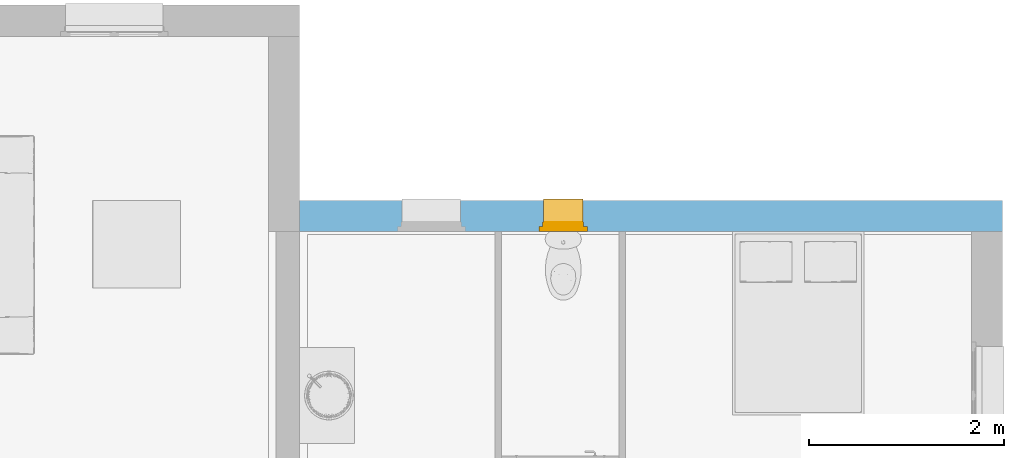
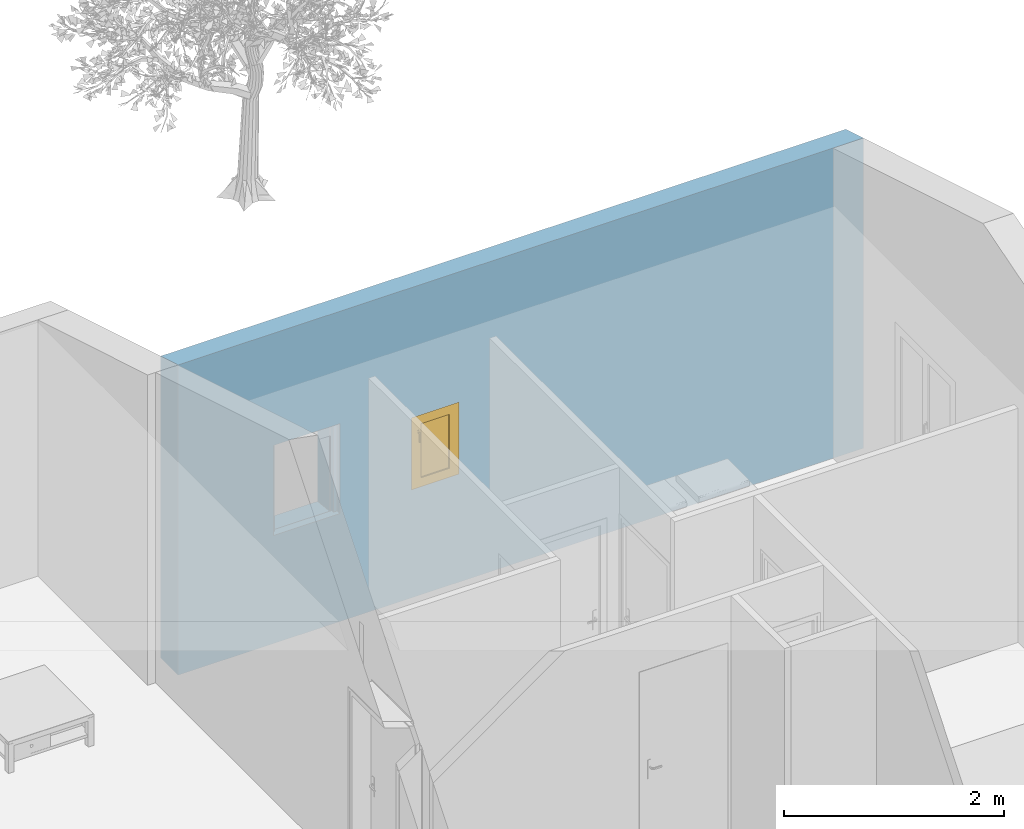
# One storey, part 14 of 18: 1 window, 2 openings, plus 1 element that does not belong to this part.
"""IFC2X3 building model written with IfcOpenShell, lengths in metres."""

import ifcopenshell
import ifcopenshell.guid

model = None  # the IFC model being written
_history = None  # IfcOwnerHistory: only IFC2X3 demands one
_inside = {}  # id of a spatial element -> (the spatial element, [elements in it])
_under = {}  # id of a project, library or spatial element -> (it, [spatial elements below it])
_declared = {}  # id of a project -> (the project, [libraries it declares])
_typed = {}  # id of a type object -> (the type object, [elements of that type])
_made_of = {}  # id of a material, layer set ... -> (it, [elements and type objects made of it])


def new_model(schema):
    """Start an empty IFC model of exactly this schema.

    Asked for "IFC4X3", IfcOpenShell would pick the latest addendum, in which some entities
    have other attributes; the version numbers below select the first issue.
    IFC2X3 requires an IfcOwnerHistory on every rooted entity: one is made here for all.
    """
    global model, _history
    if schema == "IFC4X3":
        model = ifcopenshell.file(schema_version=(4, 3, 0, 0))
    else:
        model = ifcopenshell.file(schema=schema)
    _inside.clear()
    _under.clear()
    _declared.clear()
    _typed.clear()
    _made_of.clear()
    _history = None
    if model.schema == "IFC2X3":
        org = make("IfcOrganization", Name="unknown")
        user = make(
            "IfcPersonAndOrganization",
            ThePerson=make("IfcPerson", FamilyName="unknown"),
            TheOrganization=org,
        )
        app = make(
            "IfcApplication",
            ApplicationDeveloper=org,
            Version="unknown",
            ApplicationFullName="unknown",
            ApplicationIdentifier="unknown",
        )
        _history = make(
            "IfcOwnerHistory",
            OwningUser=user,
            OwningApplication=app,
            ChangeAction="ADDED",
            CreationDate=0,
        )
    return model


def make(cls, **values):
    """One entity of the class cls with the attributes given. An attribute that is None is left unset."""
    return model.create_entity(
        cls, **{name: value for name, value in values.items() if value is not None}
    )


def entity(cls, *values):
    """Any entity or typed value of the class cls, its attributes in the order of the schema. None: left unset."""
    e = model.create_entity(cls)
    for i, value in enumerate(values):
        if value is not None:
            e[i] = value
    return e


def rooted(cls, **values):
    """An entity with a GlobalId (a new one), such as an element, a storey or a relation."""
    return make(cls, GlobalId=ifcopenshell.guid.new(), OwnerHistory=_history, **values)


def si_unit(unit_type, name, prefix=None):
    """IfcSIUnit, for example si_unit("LENGTHUNIT", "METRE", prefix="MILLI")."""
    return make("IfcSIUnit", UnitType=unit_type, Prefix=prefix, Name=name)


def converted_unit(unit_type, name, factor, base, dimensions=None, offset=None):
    """IfcConversionBasedUnit, such as the inch: factor (a typed value) times the base unit."""
    return make(
        "IfcConversionBasedUnit"
        if offset is None
        else "IfcConversionBasedUnitWithOffset",
        ConversionOffset=offset,
        Dimensions=None
        if dimensions is None
        else entity("IfcDimensionalExponents", *dimensions),
        UnitType=unit_type,
        Name=name,
        ConversionFactor=make(
            "IfcMeasureWithUnit", ValueComponent=factor, UnitComponent=base
        ),
    )


def derived_unit(unit_type, elements):
    """IfcDerivedUnit: a product of units, each with its exponent."""
    return make(
        "IfcDerivedUnit",
        Elements=[
            make("IfcDerivedUnitElement", Unit=unit, Exponent=power)
            for unit, power in elements
        ],
        UnitType=unit_type,
    )


def assignment(units):
    """IfcUnitAssignment: the units of a project."""
    return None if units is None else make("IfcUnitAssignment", Units=units)


def point(xyz):
    """IfcCartesianPoint."""
    return None if xyz is None else make("IfcCartesianPoint", Coordinates=xyz)


def direction(xyz):
    """IfcDirection."""
    return None if xyz is None else make("IfcDirection", DirectionRatios=xyz)


def frame(location, z_axis=None, x_axis=None):
    """IfcAxis2Placement3D, a coordinate frame: its origin and axes. An axis left out is left unset."""
    return make(
        "IfcAxis2Placement3D",
        Location=point(location),
        Axis=direction(z_axis),
        RefDirection=direction(x_axis),
    )


def frame_2d(location, x_axis=None):
    """IfcAxis2Placement2D, a coordinate frame in the plane: its origin and x axis."""
    return make(
        "IfcAxis2Placement2D", Location=point(location), RefDirection=direction(x_axis)
    )


def origin():
    """The frame at (0, 0, 0) with its axes left unset."""
    return frame((0.0, 0.0, 0.0))


def place(relative_to, where):
    """IfcLocalPlacement: puts the frame where relative to a parent placement (None: the world)."""
    return make(
        "IfcLocalPlacement", PlacementRelTo=relative_to, RelativePlacement=where
    )


def context(
    kind, dimensions, precision=None, world=None, true_north=None, identifier=None
):
    """IfcGeometricRepresentationContext, for example the 3D "Model" context."""
    return make(
        "IfcGeometricRepresentationContext",
        ContextIdentifier=identifier,
        ContextType=kind,
        CoordinateSpaceDimension=dimensions,
        Precision=precision,
        WorldCoordinateSystem=world,
        TrueNorth=true_north,
    )


def subcontext(parent, identifier, kind, view, scale=None):
    """IfcGeometricRepresentationSubContext, for example "Body" below "Model"."""
    return make(
        "IfcGeometricRepresentationSubContext",
        ContextIdentifier=identifier,
        ContextType=kind,
        ParentContext=parent,
        TargetScale=scale,
        TargetView=view,
    )


def project(units=None, contexts=None):
    """IfcProject with its units and contexts."""
    return rooted(
        "IfcProject",
        Name="project",
        RepresentationContexts=contexts,
        UnitsInContext=assignment(units),
    )


def spatial(cls, under=None, at=None, **own):
    """A site, building, storey or space (cls), placed at a placement, below another one or the project."""
    s = rooted(cls, ObjectPlacement=at, **own)
    if under is not None:
        _under.setdefault(under.id(), (under, []))[1].append(s)
    return s


def polyline(points):
    """IfcPolyline through the points."""
    return make("IfcPolyline", Points=[point(p) for p in points])


def profile(cls, at=None, kind="AREA", **sizes):
    """A parametric profile (cls). Its sizes go by their IFC names, for example OverallWidth=200.0."""
    return make(cls, ProfileType=kind, Position=at, **sizes)


def rectangle(**sizes):
    """IfcRectangleProfileDef."""
    return profile("IfcRectangleProfileDef", **sizes)


def extrude(swept, where, along, depth):
    """IfcExtrudedAreaSolid: the profile swept, set in the frame where, extruded along a direction by depth."""
    return make(
        "IfcExtrudedAreaSolid",
        SweptArea=swept,
        Position=where,
        ExtrudedDirection=direction(along),
        Depth=depth,
    )


def clip(a, b, op="DIFFERENCE"):
    """IfcBooleanClippingResult: the solid a cut by the half space b."""
    return make(
        "IfcBooleanClippingResult", Operator=op, FirstOperand=a, SecondOperand=b
    )


def bounded_halfspace(plane, agree, where, boundary):
    """IfcPolygonalBoundedHalfSpace: a half space limited to a polygon's prism."""
    return make(
        "IfcPolygonalBoundedHalfSpace",
        BaseSurface=make("IfcPlane", Position=plane),
        AgreementFlag=agree,
        Position=where,
        PolygonalBoundary=boundary,
    )


def faces_of(points, faces, orient=None, outer=None):
    """IfcFace entities. A face is a list of loops; a loop is a list of indices into points, from 0.

    orient and outer hold one flag for each loop. By default every Orientation is true, the
    first loop of a face is its IfcFaceOuterBound and the others are IfcFaceBound.
    """
    made = []
    for i, loops in enumerate(faces):
        bounds = []
        for j, loop in enumerate(loops):
            is_outer = j == 0 if outer is None else outer[i][j]
            bounds.append(
                make(
                    "IfcFaceOuterBound" if is_outer else "IfcFaceBound",
                    Bound=make("IfcPolyLoop", Polygon=[points[k] for k in loop]),
                    Orientation=True if orient is None else orient[i][j],
                )
            )
        made.append(make("IfcFace", Bounds=bounds))
    return made


def faceted_brep(points, faces, orient=None, outer=None, voids=None):
    """IfcFacetedBrep: a solid bounded by flat faces; with voids (closed shells), ...WithVoids."""
    shared = [point(p) for p in points]
    hull = make("IfcClosedShell", CfsFaces=faces_of(shared, faces, orient, outer))
    if voids is None:
        return make("IfcFacetedBrep", Outer=hull)
    return make(
        "IfcFacetedBrepWithVoids",
        Outer=hull,
        Voids=[
            make(cls, CfsFaces=faces_of(shared, fs, o, b)) for cls, fs, o, b in voids
        ],
    )


def shape(context_of_items, identifier, shape_type, items):
    """IfcShapeRepresentation: the items that make up one representation, for example the "Body"."""
    return make(
        "IfcShapeRepresentation",
        ContextOfItems=context_of_items,
        RepresentationIdentifier=identifier,
        RepresentationType=shape_type,
        Items=items,
    )


def source(mapping_origin, context_of_items, identifier, shape_type, items):
    """IfcRepresentationMap: a shape defined once, which mapped items show again and again."""
    return make(
        "IfcRepresentationMap",
        MappingOrigin=mapping_origin,
        MappedRepresentation=shape(context_of_items, identifier, shape_type, items),
    )


def transform(
    local_origin,
    x_axis=None,
    y_axis=None,
    z_axis=None,
    scale=None,
    scale2=None,
    scale3=None,
    uniform=True,
):
    """IfcCartesianTransformationOperator3D, or its non-uniform kind. x_axis, y_axis, z_axis: its Axis1, 2, 3."""
    if uniform:
        return make(
            "IfcCartesianTransformationOperator3D",
            Axis1=direction(x_axis),
            Axis2=direction(y_axis),
            LocalOrigin=point(local_origin),
            Scale=scale,
            Axis3=direction(z_axis),
        )
    return make(
        "IfcCartesianTransformationOperator3DnonUniform",
        Axis1=direction(x_axis),
        Axis2=direction(y_axis),
        LocalOrigin=point(local_origin),
        Scale=scale,
        Axis3=direction(z_axis),
        Scale2=scale2,
        Scale3=scale3,
    )


def mapped(mapping_source, mapping_target):
    """IfcMappedItem: shows the shape of a source again, moved by a transform."""
    return make(
        "IfcMappedItem", MappingSource=mapping_source, MappingTarget=mapping_target
    )


def material(Name=None, Category=None):
    """IfcMaterial."""
    return make("IfcMaterial", Name=Name, Category=Category)


def material_list(materials):
    """IfcMaterialList."""
    return make("IfcMaterialList", Materials=materials)


def layer(
    of_material, thickness, ventilated=None, Name=None, Category=None, Priority=None
):
    """IfcMaterialLayer: one layer of a wall or slab, of a material (None: an air gap)."""
    return make(
        "IfcMaterialLayer",
        Material=of_material,
        LayerThickness=thickness,
        IsVentilated=ventilated,
        Name=Name,
        Category=Category,
        Priority=Priority,
    )


def layer_set(layers, Name=None):
    """IfcMaterialLayerSet."""
    return make("IfcMaterialLayerSet", MaterialLayers=layers, LayerSetName=Name)


def layer_usage(for_layer_set, set_direction, sense, offset, extent=None):
    """IfcMaterialLayerSetUsage: how a layer set lies in its element."""
    return make(
        "IfcMaterialLayerSetUsage",
        ForLayerSet=for_layer_set,
        LayerSetDirection=set_direction,
        DirectionSense=sense,
        OffsetFromReferenceLine=offset,
        ReferenceExtent=extent,
    )


def made_of(thing, what):
    """Note that an element or type object is made of a material, layer set ...; save() writes the relation."""
    if what is not None:
        _made_of.setdefault(what.id(), (what, []))[1].append(thing)
    return thing


def type_object(cls, material=None, **own):
    """A type object (cls), such as IfcWallType, which elements share."""
    return made_of(rooted(cls, **own), material)


def type_shapes(of_type, sources):
    """Give a type object the sources (RepresentationMaps) that its elements show as mapped items."""
    of_type.RepresentationMaps = sources


def element(
    cls,
    number,
    at=None,
    inside=None,
    cuts=None,
    type_object=None,
    material=None,
    context=None,
    identifier="Body",
    shape_type=None,
    held_by="IfcProductDefinitionShape",
    body=None,
    shapes=None,
    **own,
):
    """One element of the class cls, such as IfcWall. Its Tag is "e" and its number.

    at: its placement. inside: the storey or other place that contains it. cuts: it is an
    opening in that element (IfcRelVoidsElement). A single representation is given by context,
    identifier, shape_type and body (its items); several are given by shapes. held_by: the class
    of the entity that holds the representations. save() writes the other relations.
    """
    e = rooted(cls, Tag="e%d" % number, ObjectPlacement=at, **own)
    if body is not None:
        shapes = [shape(context, identifier, shape_type, body)]
    if shapes is not None:
        e.Representation = make(held_by, Representations=shapes)
    if inside is not None:
        _inside.setdefault(inside.id(), (inside, []))[1].append(e)
    if cuts is not None:
        rooted(
            "IfcRelVoidsElement", RelatingBuildingElement=cuts, RelatedOpeningElement=e
        )
    if type_object is not None:
        _typed.setdefault(type_object.id(), (type_object, []))[1].append(e)
    return made_of(e, material)


def fill(opening, filler):
    """IfcRelFillsElement: the door or window that sits in an opening."""
    return rooted(
        "IfcRelFillsElement",
        RelatingOpeningElement=opening,
        RelatedBuildingElement=filler,
    )


def aggregate(whole, parts):
    """IfcRelAggregates: a whole, such as a stair, and the parts it consists of."""
    return rooted("IfcRelAggregates", RelatingObject=whole, RelatedObjects=parts)


def save(model, path):
    """Write the relations noted so far, then the file.

    IfcRelAggregates (storeys below a building ...), IfcRelContainedInSpatialStructure (elements
    in a storey), IfcRelDefinesByType, IfcRelAssociatesMaterial and IfcRelDeclares: one each for
    every whole, place, type object, material and project.
    """
    for whole, parts in _under.values():
        aggregate(whole, parts)
    for where, things in _inside.values():
        rooted(
            "IfcRelContainedInSpatialStructure",
            RelatedElements=things,
            RelatingStructure=where,
        )
    for kind, things in _typed.values():
        rooted("IfcRelDefinesByType", RelatedObjects=things, RelatingType=kind)
    for what, things in _made_of.values():
        rooted("IfcRelAssociatesMaterial", RelatedObjects=things, RelatingMaterial=what)
    for by, libraries in _declared.values():
        rooted("IfcRelDeclares", RelatingContext=by, RelatedDefinitions=libraries)
    model.write(path)


model = new_model("IFC2X3")

# Units and contexts
model_context = context("Model", 3, precision=1e-05, world=origin(), true_north=direction((6.12303176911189e-17, 1.0)))
body_context = subcontext(model_context, "Body", "Model", "MODEL_VIEW")
ifc_project = project(units=[si_unit("LENGTHUNIT", "METRE"), si_unit("AREAUNIT", "SQUARE_METRE"), si_unit("VOLUMEUNIT", "CUBIC_METRE"), converted_unit("PLANEANGLEUNIT", "DEGREE", entity("IfcRatioMeasure", 0.0174532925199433), si_unit("PLANEANGLEUNIT", "RADIAN"), dimensions=[0, 0, 0, 0, 0, 0, 0]), si_unit("MASSUNIT", "GRAM", prefix="KILO"), derived_unit("MASSDENSITYUNIT", [(si_unit("MASSUNIT", "GRAM", prefix="KILO"), 1), (si_unit("LENGTHUNIT", "METRE"), -3)]), derived_unit("MOMENTOFINERTIAUNIT", [(si_unit("LENGTHUNIT", "METRE"), 4)]), si_unit("TIMEUNIT", "SECOND"), si_unit("FREQUENCYUNIT", "HERTZ"), si_unit("THERMODYNAMICTEMPERATUREUNIT", "DEGREE_CELSIUS"), derived_unit("THERMALTRANSMITTANCEUNIT", [(si_unit("MASSUNIT", "GRAM", prefix="KILO"), 1), (si_unit("THERMODYNAMICTEMPERATUREUNIT", "KELVIN"), -1), (si_unit("TIMEUNIT", "SECOND"), -3)]), derived_unit("VOLUMETRICFLOWRATEUNIT", [(si_unit("LENGTHUNIT", "METRE"), 3), (si_unit("TIMEUNIT", "SECOND"), -1)]), si_unit("ELECTRICCURRENTUNIT", "AMPERE"), si_unit("ELECTRICVOLTAGEUNIT", "VOLT"), si_unit("POWERUNIT", "WATT"), si_unit("FORCEUNIT", "NEWTON", prefix="KILO"), si_unit("ILLUMINANCEUNIT", "LUX"), si_unit("LUMINOUSFLUXUNIT", "LUMEN"), si_unit("LUMINOUSINTENSITYUNIT", "CANDELA"), derived_unit("USERDEFINED", [(si_unit("MASSUNIT", "GRAM", prefix="KILO"), -1), (si_unit("LENGTHUNIT", "METRE"), -2), (si_unit("TIMEUNIT", "SECOND"), 3), (si_unit("LUMINOUSFLUXUNIT", "LUMEN"), 1)]), derived_unit("LINEARVELOCITYUNIT", [(si_unit("LENGTHUNIT", "METRE"), 1), (si_unit("TIMEUNIT", "SECOND"), -1)]), si_unit("PRESSUREUNIT", "PASCAL"), derived_unit("USERDEFINED", [(si_unit("LENGTHUNIT", "METRE"), -2), (si_unit("MASSUNIT", "GRAM", prefix="KILO"), 1), (si_unit("TIMEUNIT", "SECOND"), -2)]), derived_unit("LINEARFORCEUNIT", [(si_unit("MASSUNIT", "GRAM", prefix="KILO"), 1), (si_unit("LENGTHUNIT", "METRE"), 1), (si_unit("TIMEUNIT", "SECOND"), -2), (si_unit("LENGTHUNIT", "METRE"), -1)]), derived_unit("PLANARFORCEUNIT", [(si_unit("MASSUNIT", "GRAM", prefix="KILO"), 1), (si_unit("LENGTHUNIT", "METRE"), 1), (si_unit("TIMEUNIT", "SECOND"), -2), (si_unit("LENGTHUNIT", "METRE"), -2)])], contexts=[model_context])

# Site, building, storey
site_placement = place(None, origin())
site = spatial("IfcSite", under=ifc_project, at=site_placement, Name="Surface", CompositionType="ELEMENT")
building_placement = place(site_placement, origin())
building = spatial("IfcBuilding", under=site, at=building_placement, CompositionType="ELEMENT")
storey_placement = place(building_placement, origin())
storey = spatial("IfcBuildingStorey", under=building, at=storey_placement, Name="RDC", CompositionType="ELEMENT", Elevation=-1.94916083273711e-14)

# Wall, openings, window
ifc_material_1 = material(Name="Maçonnerie - Enduit")
ifc_layer_1 = layer(ifc_material_1, 0.02)
ifc_material_2 = material(Name="Blocs béton manufacturés")
ifc_layer_2 = layer(ifc_material_2, 0.2)
ifc_material_3 = material(Name="Maçonnerie - Isolant")
ifc_layer_3 = layer(ifc_material_3, 0.1)
ifc_layer_set = layer_set([ifc_layer_1, ifc_layer_2, ifc_layer_3], Name="Mur de base:Ext. Parpaing 20 + Isolant 10")
ifc_layer_usage = layer_usage(ifc_layer_set, "AXIS2", "NEGATIVE", 0.16)
wall_type = type_object("IfcWallType", Name="Mur de base:Ext. Parpaing 20 + Isolant 10", PredefinedType="STANDARD", material=ifc_layer_set)
wall_placement = place(storey_placement, frame((-11.1082926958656, 6.82737977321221, 0.0)))
wall = element("IfcWallStandardCase", 1, at=wall_placement, inside=storey, type_object=wall_type, material=ifc_layer_usage, Name="Mur de base:Ext. Parpaing 20 + Isolant 10", ObjectType="Mur de base:Ext. Parpaing 20 + Isolant 10", context=body_context, shape_type="Clipping", body=[
    clip(extrude(rectangle(XDim=7.2, YDim=0.320000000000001, at=frame_2d((3.6, 0.0), x_axis=(-1.0, 0.0))), origin(), (0.0, 0.0, 1.0), 3.44600000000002), bounded_halfspace(frame((0.0, -0.159999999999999, 3.44600000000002), z_axis=(0.0, 0.287347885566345, 0.957826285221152), x_axis=(-1.0, 0.0, 0.0)), False, frame((0.0, -0.159999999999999, 3.44600000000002)), polyline([(0.0, 0.0), (6.88, 0.0), (7.2, 0.0), (7.2, 0.32), (0.0, 0.32), (0.0, 0.0)]))),
])
opening_1_placement = place(wall_placement, frame((1.0, -0.500000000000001, 1.1240395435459)))
element("IfcOpeningElement", 2, at=opening_1_placement, cuts=wall, Name="Mur de base:Ext. Parpaing 20 + Isolant 10", ObjectType="Opening", context=body_context, shape_type="Brep", body=[
    faceted_brep([(0.0499999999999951, 0.419999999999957, 0.0759604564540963), (0.0499999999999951, 0.440000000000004, 0.0759604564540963), (0.0499999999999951, 0.440000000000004, 1.0259604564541), (0.0499999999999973, 1.0, 1.0259604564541), (0.0499999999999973, 1.0, 0.0), (0.0499999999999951, 0.419999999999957, 0.0609604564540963), (0.649999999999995, 0.0, 0.0759604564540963), (0.649999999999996, 0.340000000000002, 0.0759604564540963), (0.649999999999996, 0.340000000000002, 1.0259604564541), (0.649999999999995, 0.0, 1.0259604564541), (0.0499999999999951, 0.0, 0.0759604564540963), (0.0499999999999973, 0.340000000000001, 0.0759604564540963), (0.0, 0.340000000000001, 0.0759604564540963), (0.0, 0.39, 0.0759604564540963), (0.0399999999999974, 0.39, 0.0759604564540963), (0.0399999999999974, 0.440000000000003, 0.0759604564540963), (0.649999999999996, 0.419999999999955, 0.0759604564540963), (0.649999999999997, 0.440000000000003, 0.0759604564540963), (0.659999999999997, 0.440000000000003, 0.0759604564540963), (0.659999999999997, 0.39, 0.0759604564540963), (0.699999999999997, 0.39, 0.0759604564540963), (0.699999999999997, 0.340000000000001, 0.0759604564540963), (0.0499999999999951, 0.0, 1.0259604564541), (0.649999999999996, 0.440000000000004, 1.0259604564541), (0.649999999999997, 1.0, 1.0259604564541), (0.649999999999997, 1.0, 0.0), (0.649999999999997, 0.419999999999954, 0.0609604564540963), (0.0, 0.340000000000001, 1.0759604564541), (0.0, 0.39, 1.0759604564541), (0.699999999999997, 0.39, 1.0759604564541), (0.659999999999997, 0.39, 1.0359604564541), (0.0399999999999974, 0.39, 1.0359604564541), (0.0399999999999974, 0.440000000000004, 1.0359604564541), (0.659999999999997, 0.440000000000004, 1.0359604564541), (0.0499999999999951, 0.340000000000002, 1.0259604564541), (0.699999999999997, 0.340000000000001, 1.0759604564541)], [[[0, 1, 2, 3, 4, 5]], [[6, 7, 8, 9]], [[10, 11, 12, 13, 14, 15, 1, 0, 16, 17, 18, 19, 20, 21, 7, 6]], [[10, 6, 9, 22]], [[3, 2, 23, 24]], [[3, 24, 25, 4]], [[4, 25, 26, 5]], [[5, 26, 16, 0]], [[12, 27, 28, 13]], [[13, 28, 29, 20, 19, 30, 31, 14]], [[14, 31, 32, 15]], [[15, 32, 33, 18, 17, 23, 2, 1]], [[11, 34, 8, 7, 21, 35, 27, 12]], [[27, 35, 29, 28]], [[30, 33, 32, 31]], [[29, 35, 21, 20]], [[19, 18, 33, 30]], [[9, 8, 34, 22]], [[24, 23, 17, 16, 26, 25]], [[22, 34, 11, 10]]]),
])
opening_2_placement = place(wall_placement, frame((2.45, -0.500000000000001, 1.1240395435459)))
opening_2 = element("IfcOpeningElement", 3, at=opening_2_placement, cuts=wall, Name="Mur de base:Ext. Parpaing 20 + Isolant 10", ObjectType="Opening", context=body_context, shape_type="Brep", body=[
    faceted_brep([(0.0500000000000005, 0.419999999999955, 0.075960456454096), (0.0500000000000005, 0.440000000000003, 0.075960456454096), (0.0500000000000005, 0.440000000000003, 0.825960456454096), (0.0500000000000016, 1.0, 0.825960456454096), (0.0500000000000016, 1.0, 0.0), (0.0500000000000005, 0.419999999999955, 0.0609604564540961), (0.45, 0.0, 0.075960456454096), (0.450000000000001, 0.340000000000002, 0.075960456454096), (0.450000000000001, 0.340000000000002, 0.825960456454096), (0.45, 0.0, 0.825960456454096), (0.0499999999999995, 0.0, 0.075960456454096), (0.0499999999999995, 0.340000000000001, 0.075960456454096), (0.0, 0.340000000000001, 0.075960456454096), (0.0, 0.39, 0.075960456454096), (0.0399999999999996, 0.39, 0.075960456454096), (0.0399999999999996, 0.440000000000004, 0.075960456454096), (0.450000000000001, 0.419999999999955, 0.0759604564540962), (0.45, 0.440000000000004, 0.075960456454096), (0.459999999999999, 0.440000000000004, 0.075960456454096), (0.459999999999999, 0.39, 0.075960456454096), (0.499999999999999, 0.39, 0.075960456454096), (0.499999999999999, 0.340000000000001, 0.075960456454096), (0.0499999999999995, 0.0, 0.825960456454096), (0.450000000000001, 0.440000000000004, 0.825960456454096), (0.450000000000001, 1.0, 0.825960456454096), (0.450000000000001, 1.0, 0.0), (0.45, 0.419999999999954, 0.0609604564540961), (0.0, 0.340000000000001, 0.875960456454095), (0.0, 0.39, 0.875960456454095), (0.499999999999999, 0.39, 0.875960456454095), (0.46, 0.39, 0.835960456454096), (0.0399999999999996, 0.39, 0.835960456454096), (0.0399999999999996, 0.440000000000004, 0.835960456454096), (0.459999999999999, 0.440000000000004, 0.835960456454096), (0.0499999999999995, 0.340000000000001, 0.825960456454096), (0.5, 0.340000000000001, 0.875960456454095)], [[[0, 1, 2, 3, 4, 5]], [[6, 7, 8, 9]], [[10, 11, 12, 13, 14, 15, 1, 0, 16, 17, 18, 19, 20, 21, 7, 6]], [[10, 6, 9, 22]], [[3, 2, 23, 24]], [[3, 24, 25, 4]], [[4, 25, 26, 5]], [[5, 26, 16, 0]], [[12, 27, 28, 13]], [[13, 28, 29, 20, 19, 30, 31, 14]], [[14, 31, 32, 15]], [[15, 32, 33, 18, 17, 23, 2, 1]], [[11, 34, 8, 7, 21, 35, 27, 12]], [[27, 35, 29, 28]], [[30, 33, 32, 31]], [[29, 35, 21, 20]], [[19, 18, 33, 30]], [[9, 8, 34, 22]], [[24, 23, 17, 16, 26, 25]], [[22, 34, 11, 10]]]),
])
ifc_material_4 = material(Name="Fenêtre - Poignée")
ifc_material_5 = material(Name="Fenêtre - Appui")
ifc_material_6 = material(Name="Fenêtre - Vitrage")
ifc_material_7 = material(Name="Fenêtre - Cadre")
ifc_material_list_1 = material_list([ifc_material_4, ifc_material_5, ifc_material_6, ifc_material_7])
ifc_material_list_2 = material_list([ifc_material_6, ifc_material_4, ifc_material_7, ifc_material_7, ifc_material_5])
window_style = type_object("IfcWindowStyle", Name="1 Vantail - Droit:0.40m x 0.75m - Appui Alu", ConstructionType="NOTDEFINED", OperationType="SINGLE_PANEL", ParameterTakesPrecedence=False, Sizeable=False, material=ifc_material_list_2)
shared_shape = source(origin(), body_context, "Body", "Brep", [
    faceted_brep([(0.0806460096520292, -0.666000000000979, 0.697994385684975), (0.0820339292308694, -0.666000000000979, 0.696606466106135), (0.0820339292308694, -0.666000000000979, 0.68529275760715), (0.0806676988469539, -0.666000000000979, 0.683926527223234), (0.0693323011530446, -0.666000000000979, 0.683926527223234), (0.067966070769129, -0.666000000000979, 0.68529275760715), (0.067966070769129, -0.666000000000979, 0.696606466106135), (0.069353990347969, -0.666000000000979, 0.697994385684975), (0.0806460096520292, -0.678913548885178, 0.697994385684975), (0.0820339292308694, -0.67833865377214, 0.696606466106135), (0.0820339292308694, -0.691646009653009, 0.683299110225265), (0.0820339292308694, -0.691646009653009, 0.595960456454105), (0.0820339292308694, -0.680332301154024, 0.595960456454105), (0.0820339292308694, -0.680332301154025, 0.67861281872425), (0.0820339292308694, -0.673652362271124, 0.68529275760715), (0.0806676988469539, -0.673086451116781, 0.683926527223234), (0.0693323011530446, -0.673086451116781, 0.683926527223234), (0.067966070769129, -0.673652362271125, 0.68529275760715), (0.067966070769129, -0.680332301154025, 0.67861281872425), (0.067966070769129, -0.680332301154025, 0.595960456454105), (0.067966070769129, -0.691646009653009, 0.595960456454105), (0.067966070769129, -0.69164600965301, 0.683299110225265), (0.067966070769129, -0.67833865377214, 0.696606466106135), (0.069353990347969, -0.678913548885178, 0.697994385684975), (0.0806460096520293, -0.69303392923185, 0.683874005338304), (0.0806676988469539, -0.678966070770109, 0.678046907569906), (0.0693323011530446, -0.678966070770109, 0.678046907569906), (0.069353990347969, -0.69303392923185, 0.683874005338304), (0.0806460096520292, -0.69303392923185, 0.595960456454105), (0.069353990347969, -0.69303392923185, 0.595960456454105), (0.0693323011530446, -0.678966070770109, 0.595960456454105), (0.0806676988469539, -0.678966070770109, 0.595960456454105)], [[[0, 1, 2, 3, 4, 5, 6, 7]], [[1, 0, 8, 9]], [[2, 1, 9, 10, 11, 12, 13, 14]], [[3, 2, 14, 15]], [[4, 3, 15, 16]], [[5, 4, 16, 17]], [[6, 5, 17, 18, 19, 20, 21, 22]], [[7, 6, 22, 23]], [[0, 7, 23, 8]], [[9, 8, 24, 10]], [[15, 14, 13, 25]], [[16, 15, 25, 26]], [[17, 16, 26, 18]], [[23, 22, 21, 27]], [[8, 23, 27, 24]], [[28, 29, 20, 19, 30, 31, 12, 11]], [[10, 24, 28, 11]], [[25, 13, 12, 31]], [[26, 25, 31, 30]], [[18, 26, 30, 19]], [[27, 21, 20, 29]], [[24, 27, 29, 28]]]),
    faceted_brep([(0.0820000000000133, -0.666, 0.715960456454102), (0.0679999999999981, -0.666, 0.715960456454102), (0.0629999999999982, -0.666, 0.710960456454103), (0.0629999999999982, -0.666, 0.640960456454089), (0.0679999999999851, -0.666, 0.635960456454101), (0.0820000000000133, -0.666, 0.635960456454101), (0.0869999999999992, -0.666, 0.640960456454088), (0.0869999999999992, -0.666, 0.710960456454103), (0.0820000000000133, -0.66, 0.715960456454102), (0.0869999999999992, -0.66, 0.710960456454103), (0.0869999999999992, -0.66, 0.640960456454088), (0.0820000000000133, -0.66, 0.635960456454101), (0.0679999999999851, -0.66, 0.635960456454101), (0.0629999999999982, -0.66, 0.640960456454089), (0.0629999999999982, -0.66, 0.710960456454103), (0.0679999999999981, -0.66, 0.715960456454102)], [[[0, 1, 2, 3, 4, 5, 6, 7]], [[8, 9, 10, 11, 12, 13, 14, 15]], [[1, 0, 8, 15]], [[2, 1, 15, 14]], [[3, 2, 14, 13]], [[4, 3, 13, 12]], [[5, 4, 12, 11]], [[6, 5, 11, 10]], [[7, 6, 10, 9]], [[0, 7, 9, 8]]]),
    faceted_brep([(0.45, -0.324999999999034, 0.0394140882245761), (0.45, -0.574999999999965, 0.0656901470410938), (0.45, -0.574999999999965, 0.0759604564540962), (0.45, -0.579999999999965, 0.0759604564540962), (0.45, -0.579999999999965, 0.0609604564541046), (0.45, -0.329999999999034, 0.0346843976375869), (0.45, -0.329999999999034, 0.0243838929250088), (0.45, -0.324999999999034, 0.0238583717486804), (0.0499999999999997, -0.324999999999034, 0.0394140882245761), (0.0499999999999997, -0.324999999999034, 0.0238583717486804), (0.0499999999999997, -0.329999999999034, 0.0243838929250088), (0.0499999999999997, -0.329999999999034, 0.0346843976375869), (0.0499999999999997, -0.579999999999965, 0.0609604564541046), (0.0499999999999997, -0.579999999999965, 0.0759604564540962), (0.0499999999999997, -0.574999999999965, 0.0759604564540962), (0.0499999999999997, -0.574999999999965, 0.0656901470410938)], [[[0, 1, 2, 3, 4, 5, 6, 7]], [[8, 9, 10, 11, 12, 13, 14, 15]], [[1, 0, 8, 15]], [[2, 1, 15, 14]], [[3, 2, 14, 13]], [[4, 3, 13, 12]], [[5, 4, 12, 11]], [[6, 5, 11, 10]], [[7, 6, 10, 9]], [[0, 7, 9, 8]]]),
    faceted_brep([(0.05, -0.324999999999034, 0.0408400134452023), (0.05, -0.324999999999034, 0.0394140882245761), (0.0499999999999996, -0.574999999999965, 0.0656901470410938), (0.0499999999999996, -0.574999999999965, 0.0707176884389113), (0.05, -0.328581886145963, 0.0448181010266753), (0.05, -0.326027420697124, 0.0435165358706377), (0.0549999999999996, -0.574999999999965, 0.0707176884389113), (0.0549999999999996, -0.574999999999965, 0.0656901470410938), (0.055, -0.324999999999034, 0.0394140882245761), (0.055, -0.324999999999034, 0.0408400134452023), (0.055, -0.326027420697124, 0.0435165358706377), (0.055, -0.328581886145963, 0.0448181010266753)], [[[0, 1, 2, 3, 4, 5]], [[6, 7, 8, 9, 10, 11]], [[2, 1, 8, 7]], [[3, 2, 7, 6]], [[4, 3, 6, 11]], [[4, 11, 10, 5]], [[10, 9, 0, 5]], [[1, 0, 9, 8]]]),
    faceted_brep([(0.445, -0.324999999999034, 0.0408400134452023), (0.445, -0.324999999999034, 0.0394140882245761), (0.445, -0.574999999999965, 0.0656901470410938), (0.445, -0.574999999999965, 0.0707176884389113), (0.445, -0.328581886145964, 0.0448181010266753), (0.445, -0.326027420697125, 0.0435165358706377), (0.45, -0.574999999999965, 0.0707176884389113), (0.45, -0.574999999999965, 0.0656901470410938), (0.45, -0.324999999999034, 0.0394140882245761), (0.45, -0.324999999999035, 0.0408400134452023), (0.45, -0.326027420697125, 0.0435165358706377), (0.45, -0.328581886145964, 0.0448181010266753)], [[[0, 1, 2, 3, 4, 5]], [[6, 7, 8, 9, 10, 11]], [[2, 1, 8, 7]], [[3, 2, 7, 6]], [[4, 3, 6, 11]], [[4, 11, 10, 5]], [[10, 9, 0, 5]], [[1, 0, 9, 8]]]),
    faceted_brep([(0.0999999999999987, -0.634000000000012, 0.175960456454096), (0.0999999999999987, -0.634000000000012, 0.775960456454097), (0.4, -0.634000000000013, 0.775960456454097), (0.4, -0.634000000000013, 0.175960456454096), (0.0999999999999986, -0.646000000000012, 0.175960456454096), (0.0999999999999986, -0.646000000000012, 0.775960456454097), (0.4, -0.646000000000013, 0.775960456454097), (0.4, -0.646000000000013, 0.175960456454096)], [[[0, 1, 2, 3]], [[1, 0, 4, 5]], [[3, 2, 6, 7]], [[0, 3, 7, 4]], [[4, 7, 6, 5]], [[2, 1, 5, 6]]]),
    faceted_brep([(0.0999999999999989, -0.620000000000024, 0.775960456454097), (0.0999999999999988, -0.660000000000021, 0.775960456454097), (0.0999999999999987, -0.660000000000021, 0.175960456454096), (0.0999999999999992, -0.620000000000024, 0.175960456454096), (0.4, -0.660000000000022, 0.175960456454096), (0.4, -0.620000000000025, 0.175960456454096), (0.4, -0.660000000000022, 0.775960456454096), (0.449999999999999, -0.660000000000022, 0.125960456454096), (0.449999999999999, -0.660000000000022, 0.825960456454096), (0.0499999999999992, -0.660000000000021, 0.825960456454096), (0.0499999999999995, -0.660000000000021, 0.125960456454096), (0.4, -0.620000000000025, 0.775960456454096), (0.0499999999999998, -0.620000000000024, 0.125960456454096), (0.0499999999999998, -0.620000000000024, 0.825960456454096), (0.449999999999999, -0.620000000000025, 0.825960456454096), (0.449999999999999, -0.620000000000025, 0.125960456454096)], [[[0, 1, 2, 3]], [[3, 2, 4, 5]], [[2, 1, 6, 4], [7, 8, 9, 10]], [[5, 4, 6, 11]], [[5, 11, 0, 3], [12, 13, 14, 15]], [[9, 13, 12, 10]], [[10, 12, 15, 7]], [[7, 15, 14, 8]], [[11, 6, 1, 0]], [[8, 14, 13, 9]]], outer=[[True], [True], [False, True], [True], [False, True], [True], [True], [True], [True], [True]]),
    faceted_brep([(0.0, -0.66, 0.0759604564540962), (0.0, -0.610000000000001, 0.0759604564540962), (0.0499999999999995, -0.610000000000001, 0.0759604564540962), (0.0499999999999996, -0.560000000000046, 0.0759604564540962), (0.45, -0.560000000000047, 0.0759604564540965), (0.449999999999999, -0.610000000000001, 0.0759604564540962), (0.499999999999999, -0.610000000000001, 0.0759604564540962), (0.499999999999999, -0.66, 0.0759604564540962), (0.0, -0.66, 0.875960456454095), (0.0, -0.610000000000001, 0.875960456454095), (0.499999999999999, -0.610000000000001, 0.875960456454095), (0.449999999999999, -0.610000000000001, 0.115336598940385), (0.0499999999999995, -0.610000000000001, 0.1153365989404), (0.0649999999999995, -0.610000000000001, 0.810960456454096), (0.0649999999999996, -0.610000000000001, 0.140960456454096), (0.434999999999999, -0.610000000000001, 0.140960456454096), (0.435, -0.610000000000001, 0.810960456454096), (0.0499999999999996, -0.550000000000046, 0.0992596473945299), (0.0499999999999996, -0.550000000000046, 0.0709604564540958), (0.0499999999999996, -0.560000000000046, 0.0709604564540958), (0.45, -0.560000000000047, 0.0709604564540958), (0.45, -0.550000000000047, 0.0709604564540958), (0.45, -0.550000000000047, 0.0992596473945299), (0.499999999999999, -0.66, 0.875960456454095), (0.45, -0.66, 0.825960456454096), (0.449999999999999, -0.660000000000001, 0.125960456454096), (0.0499999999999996, -0.66, 0.125960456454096), (0.0499999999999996, -0.66, 0.825960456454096), (0.0649999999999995, -0.620000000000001, 0.810960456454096), (0.0649999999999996, -0.620000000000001, 0.140960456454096), (0.434999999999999, -0.620000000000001, 0.140960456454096), (0.434999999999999, -0.620000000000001, 0.810960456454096), (0.45, -0.620000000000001, 0.825960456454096), (0.0499999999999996, -0.620000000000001, 0.825960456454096), (0.0499999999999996, -0.620000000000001, 0.125960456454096), (0.45, -0.620000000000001, 0.125960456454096)], [[[0, 1, 2, 3, 4, 5, 6, 7]], [[1, 0, 8, 9]], [[1, 9, 10, 6, 5, 11, 12, 2], [13, 14, 15, 16]], [[12, 17, 18, 19, 3, 2]], [[3, 19, 20, 4]], [[4, 20, 21, 22, 11, 5]], [[6, 10, 23, 7]], [[0, 7, 23, 8], [24, 25, 26, 27]], [[13, 28, 29, 14]], [[29, 30, 15, 14]], [[31, 16, 15, 30]], [[17, 12, 11, 22]], [[32, 33, 34, 35], [28, 31, 30, 29]], [[34, 33, 27, 26]], [[26, 25, 35, 34]], [[24, 32, 35, 25]], [[18, 17, 22, 21]], [[19, 18, 21, 20]], [[13, 16, 31, 28]], [[33, 32, 24, 27]], [[10, 9, 8, 23]]]),
    faceted_brep([(0.0499999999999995, -0.559999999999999, 0.0759604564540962), (0.0499999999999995, -0.610000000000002, 0.0759604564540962), (0.0399999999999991, -0.610000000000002, 0.0759604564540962), (0.0399999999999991, -0.559999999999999, 0.0759604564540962), (0.0499999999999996, -0.559999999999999, 0.825960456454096), (0.0499999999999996, -0.610000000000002, 0.825960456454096), (0.45, -0.610000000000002, 0.825960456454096), (0.45, -0.610000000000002, 0.0759604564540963), (0.46, -0.610000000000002, 0.0759604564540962), (0.46, -0.610000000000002, 0.835960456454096), (0.0399999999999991, -0.610000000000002, 0.835960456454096), (0.0399999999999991, -0.559999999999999, 0.835960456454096), (0.46, -0.559999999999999, 0.835960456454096), (0.46, -0.559999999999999, 0.0759604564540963), (0.45, -0.559999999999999, 0.0759604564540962), (0.45, -0.559999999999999, 0.825960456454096)], [[[0, 1, 2, 3]], [[1, 0, 4, 5]], [[2, 1, 5, 6, 7, 8, 9, 10]], [[3, 2, 10, 11]], [[0, 3, 11, 12, 13, 14, 15, 4]], [[6, 15, 14, 7]], [[14, 13, 8, 7]], [[12, 9, 8, 13]], [[5, 4, 15, 6]], [[11, 10, 9, 12]]]),
])
type_shapes(window_style, [shared_shape])
window_placement = place(opening_2_placement, frame((0.0, 1.0, 0.0)))
window = element("IfcWindow", 4, at=window_placement, inside=storey, type_object=window_style, material=ifc_material_list_1, Name="1 Vantail - Droit:0.40m x 0.75m - Appui Alu", ObjectType="1 Vantail - Droit:0.40m x 0.75m - Appui Alu", OverallHeight=1.08, OverallWidth=0.5, context=body_context, shape_type="MappedRepresentation", body=[
    mapped(shared_shape, transform((0.0, 0.0, 0.0), scale=1.0)),
])
fill(opening_2, window)

save(model, "model.ifc")
